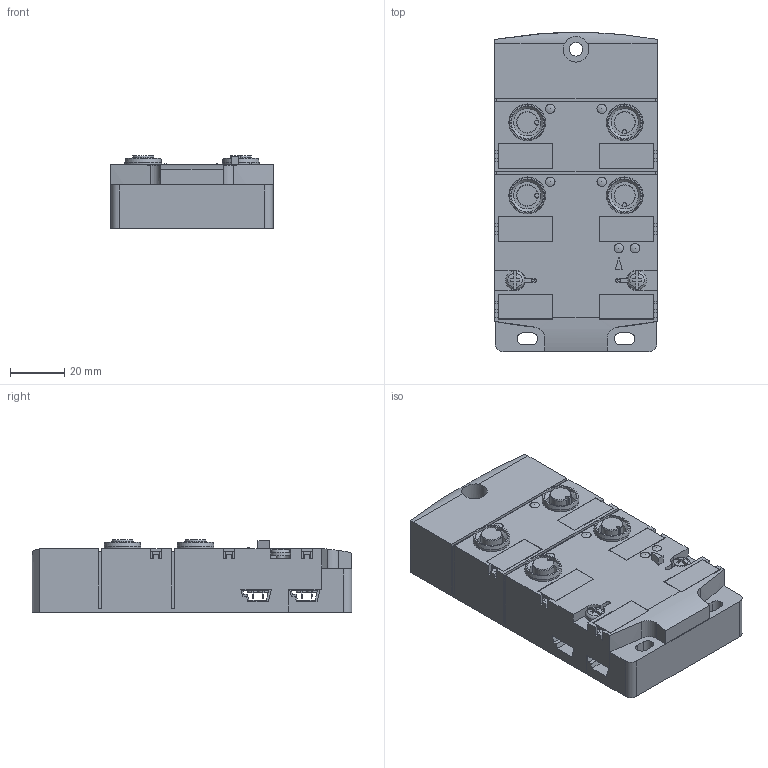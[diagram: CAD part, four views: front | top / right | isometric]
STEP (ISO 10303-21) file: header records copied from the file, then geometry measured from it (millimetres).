
FILE_DESCRIPTION( ( 'STEP AP203' ), ' ' );
FILE_NAME( 'p:/temp/worker_15/3124_3616/app_54_02015083108111878126730192d056f_000000_00_00_000000/format_3/AC2453.stp', '2015-08-31T06:11:26', ( '' ), ( '' ), ' ', 'PARTsolutions', ' ' );
FILE_SCHEMA( ( 'CONFIG_CONTROL_DESIGN' ) );
Length unit declared in the file: millimetre
Products named in the file (1): _AC2453
Bounding box: 60 x 118 x 26.8 mm (x, y, z)
Volume: 147720.5 mm3; surface area: 38957.8 mm2
Topology: 1 solids, 1 shells, 1041 faces, 2845 edges, 1882 vertices
Faces by surface type: plane 863, cylinder 148, cone 18, sphere 6, bspline 4, torus 2
Full cylindrical faces by diameter (mm): 1.05 x2, 3 x2, 3.261 x2, 4.9 x2, 5 x1, 5.3 x2, 7 x2, 9.5 x1, 10.106 x4, 12.2 x4, 13.6 x4
Entity records: 32513 total; most frequent: CARTESIAN_POINT 6025, ORIENTED_EDGE 5560, DIRECTION 5153, EDGE_CURVE 2780, LINE 2399, VECTOR 2399, VERTEX_POINT 1871, AXIS2_PLACEMENT_3D 1377
